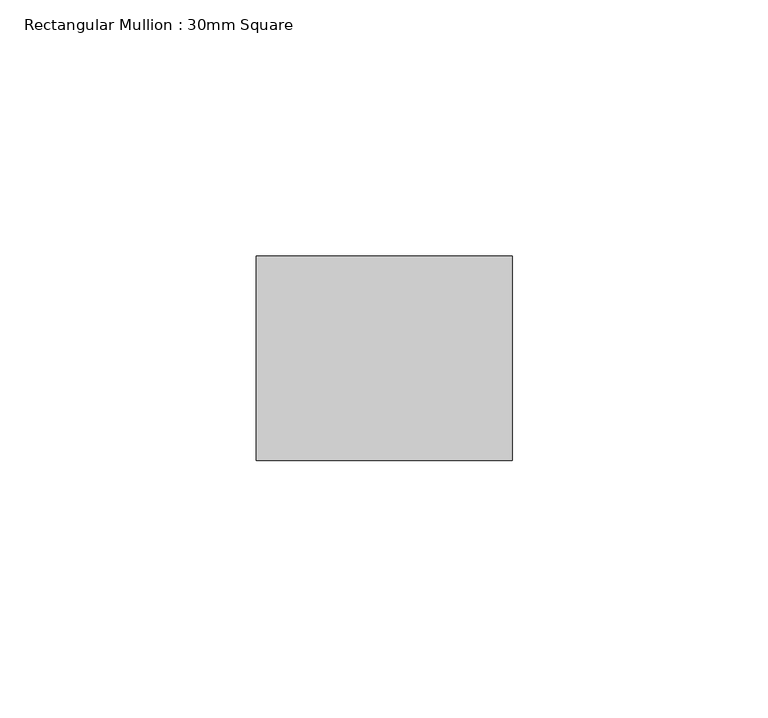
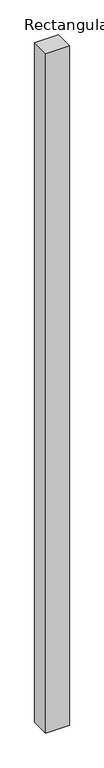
"""IFC4 building model written with IfcOpenShell, lengths in millimetres: member geometry, Rectangular Mullion : 30mm Square."""

from ifc_helpers import new_model, si_unit, frame, origin, place, context, project, spatial, polyline, outline, extrude, source, transform, mapped, element, save


def rectangular_mullion_30mm_square_ba0c374f(model_context):
    return source(origin(), model_context, "Body", "SweptSolid", [
        extrude(outline(polyline([(25.0, 20.0), (25.0, -20.0), (-25.0, -20.0), (-25.0, 20.0), (25.0, 20.0)])), frame((0.0, 0.0, -1515.0), z_axis=(0.0, 0.0, 1.0), x_axis=(1.0, 0.0, 0.0)), (0.0, 0.0, 1.0), 1515.0),
    ])


if __name__ == "__main__":
    model = new_model("IFC4")
    model_context = context("Model", 3, world=origin())
    ifc_project = project(units=[si_unit("LENGTHUNIT", "METRE", prefix="MILLI")], contexts=[model_context])
    site = spatial("IfcSite", under=ifc_project)
    building = spatial("IfcBuilding", under=site)
    placement = place(None, origin())
    rectangular_mullion_30mm_square_shape = rectangular_mullion_30mm_square_ba0c374f(model_context)
    element("IfcMember", 1, ObjectType="Rectangular Mullion : 30mm Square", at=placement, inside=building, context=model_context, shape_type="MappedRepresentation", body=[
        mapped(rectangular_mullion_30mm_square_shape, transform((0.0, 0.0, 0.0), x_axis=(1.0, 0.0, 0.0), y_axis=(0.0, 1.0, 0.0), z_axis=(0.0, 0.0, 1.0))),
    ])
    save(model, "model.ifc")
